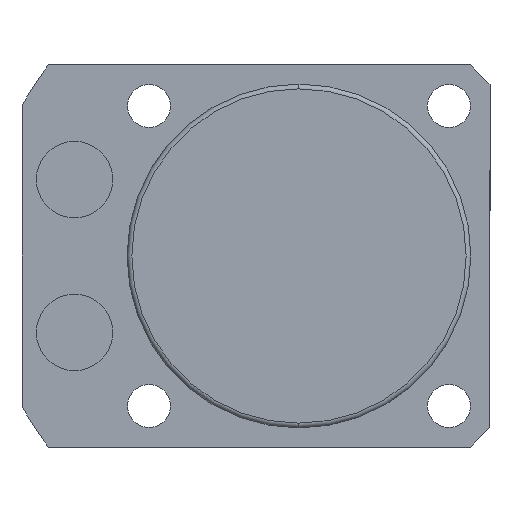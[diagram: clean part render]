
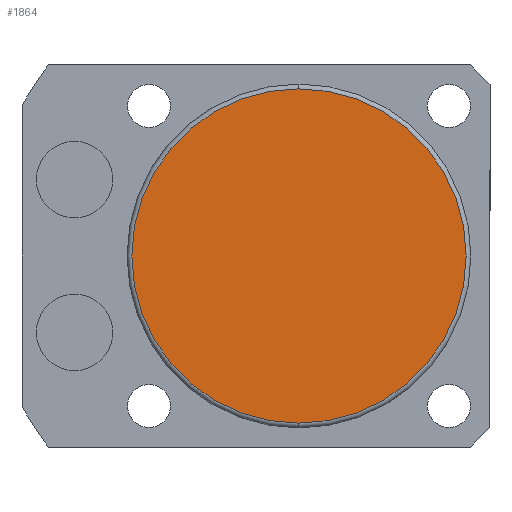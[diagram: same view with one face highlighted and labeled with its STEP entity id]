
A CAD part, front view. The second image highlights one B-rep face of the part: STEP entity #1864.
In plain terms, the highlighted planar face has unit normal (0, -1, 0).
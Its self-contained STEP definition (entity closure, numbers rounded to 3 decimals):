
#124 = VERTEX_POINT ( 'NONE', #1261 ) ;
#171 = AXIS2_PLACEMENT_3D ( 'NONE', #454, #2022, #2812 ) ;
#274 = AXIS2_PLACEMENT_3D ( 'NONE', #4773, #3221, #3589 ) ;
#369 = EDGE_LOOP ( 'NONE', ( #616, #1854 ) ) ;
#454 = CARTESIAN_POINT ( 'NONE',  ( 0., -35.5, 0. ) ) ;
#616 = ORIENTED_EDGE ( 'NONE', *, *, #1031, .T. ) ;
#1031 = EDGE_CURVE ( 'NONE', #124, #4135, #3239, .T. ) ;
#1201 = PLANE ( 'NONE',  #4710 ) ;
#1261 = CARTESIAN_POINT ( 'NONE',  ( 0., -35.5, -17.5 ) ) ;
#1821 = CARTESIAN_POINT ( 'NONE',  ( 0., -35.5, 17.5 ) ) ;
#1854 = ORIENTED_EDGE ( 'NONE', *, *, #2133, .T. ) ;
#1864 = ADVANCED_FACE ( 'NONE', ( #2262 ), #1201, .T. ) ;
#2022 = DIRECTION ( 'NONE',  ( 0., -1., 0. ) ) ;
#2133 = EDGE_CURVE ( 'NONE', #4135, #124, #4438, .T. ) ;
#2262 = FACE_OUTER_BOUND ( 'NONE', #369, .T. ) ;
#2737 = DIRECTION ( 'NONE',  ( 0., 0., -1. ) ) ;
#2812 = DIRECTION ( 'NONE',  ( 0., 0., -1. ) ) ;
#3221 = DIRECTION ( 'NONE',  ( 0., -1., 0. ) ) ;
#3239 = CIRCLE ( 'NONE', #171, 17.5 ) ;
#3515 = DIRECTION ( 'NONE',  ( 0., -1., 0. ) ) ;
#3589 = DIRECTION ( 'NONE',  ( 0., 0., -1. ) ) ;
#4135 = VERTEX_POINT ( 'NONE', #1821 ) ;
#4438 = CIRCLE ( 'NONE', #274, 17.5 ) ;
#4710 = AXIS2_PLACEMENT_3D ( 'NONE', #5031, #3515, #2737 ) ;
#4773 = CARTESIAN_POINT ( 'NONE',  ( 0., -35.5, 0. ) ) ;
#5031 = CARTESIAN_POINT ( 'NONE',  ( 0., -35.5, 0. ) ) ;
